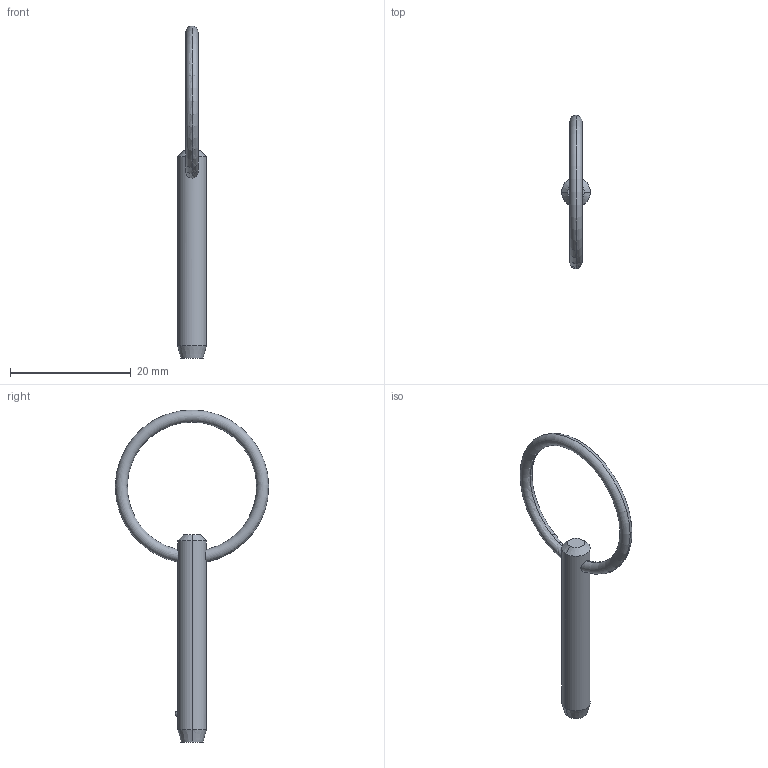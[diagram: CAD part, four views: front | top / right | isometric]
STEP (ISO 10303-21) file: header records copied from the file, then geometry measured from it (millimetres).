
FILE_DESCRIPTION (( 'STEP AP203' ), '1' );
FILE_NAME ('P1250.018-100.step', '2019-07-29T19:30:42', ( '' ), ( '' ), 'SwSTEP 2.0', 'SolidWorks 2017', '' );
FILE_SCHEMA (( 'CONFIG_CONTROL_DESIGN' ));
Length unit declared in the file: millimetre
Products named in the file (1): P1250.018-100
Bounding box: 4.76 x 25.4 x 54.98 mm (x, y, z)
Volume: 813.3 mm3; surface area: 956.4 mm2
Topology: 1 solids, 1 shells, 12 faces, 28 edges, 17 vertices
Faces by surface type: cone 4, torus 2, sphere 2, cylinder 2, plane 2
Entity records: 471 total; most frequent: CARTESIAN_POINT 138, DIRECTION 56, ORIENTED_EDGE 48, AXIS2_PLACEMENT_3D 25, EDGE_CURVE 24, EDGE_LOOP 15, VERTEX_POINT 15, FACE_OUTER_BOUND 12
